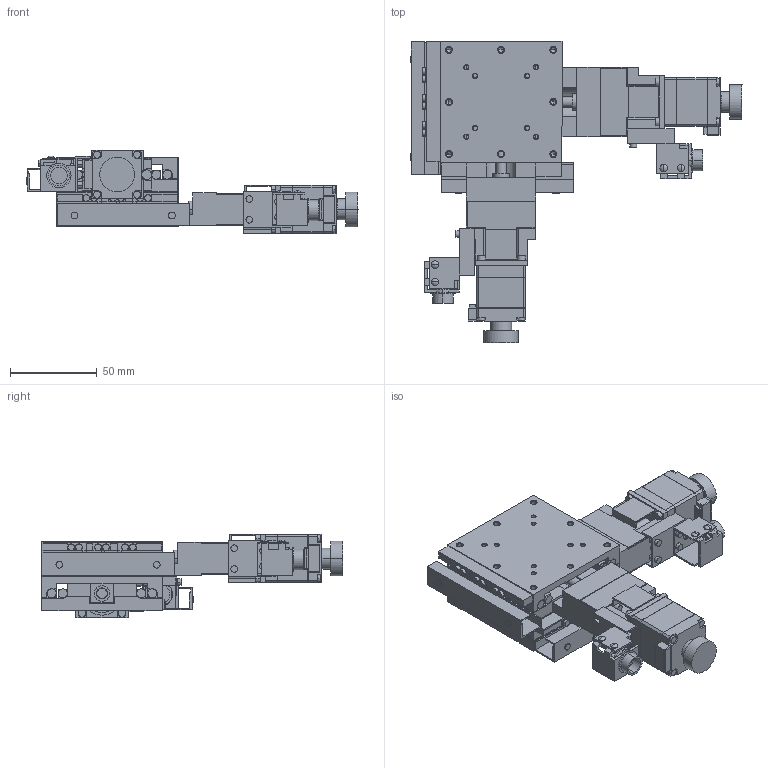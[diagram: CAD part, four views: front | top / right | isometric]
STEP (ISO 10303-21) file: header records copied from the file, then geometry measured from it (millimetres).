
FILE_DESCRIPTION(('STEP AP203'),'1');
FILE_NAME('C:/3D-Trans/3D_PMG715M-R□-E4+240122.step','2024-03-14T05:48:32',(' '),(' '),'Spatial InterOp 3D',' ',' ');
FILE_SCHEMA(('CONFIG_CONTROL_DESIGN'));
Length unit declared in the file: millimetre
Products named in the file (12): 1; 2; 3; 4; 5; 6; 7; 8; 9; 10; 11; 12
Bounding box: 190.9 x 173.5 x 48 mm (x, y, z)
Volume: 264920.7 mm3; surface area: 130368.6 mm2
Topology: 12 solids, 12 shells, 1514 faces, 3892 edges, 2470 vertices
Faces by surface type: plane 892, cylinder 462, cone 152, sphere 8
Entity records: 46496 total; most frequent: CARTESIAN_POINT 8216, DIRECTION 8060, ORIENTED_EDGE 7688, EDGE_CURVE 3844, AXIS2_PLACEMENT_3D 2706, LINE 2648, VECTOR 2648, VERTEX_POINT 2470
